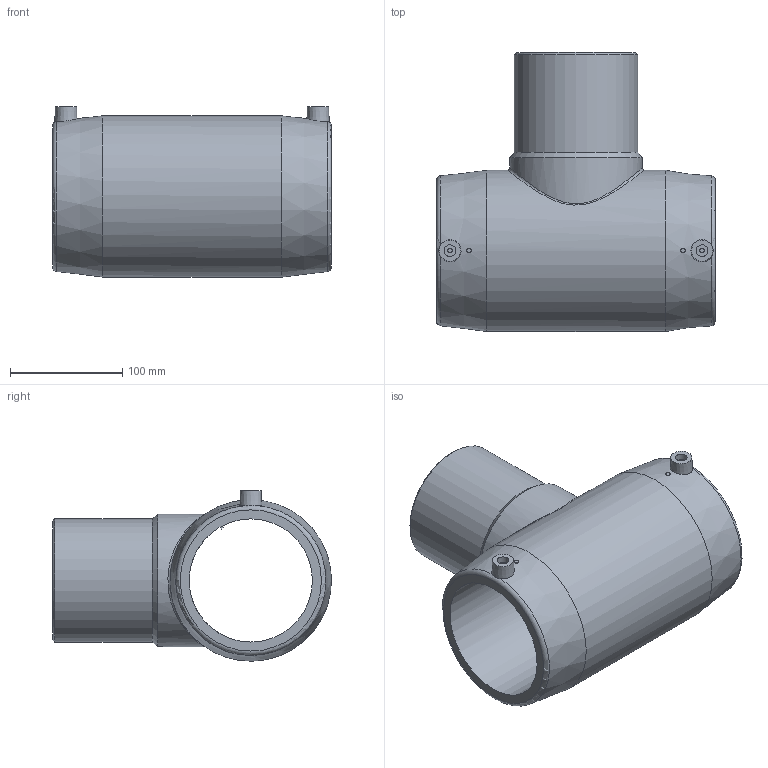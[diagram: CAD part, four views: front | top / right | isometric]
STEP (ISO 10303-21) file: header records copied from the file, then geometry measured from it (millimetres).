
FILE_DESCRIPTION(/* description */ ('Unknown'),/* implementation_level */ '2;1');
FILE_NAME(/* name */ 'TEP110C',/* time_stamp */ '2021-01-25T15:52:29+01:00',/* author */ ('Unknown'),/* organization */ ('Unknown'),/* preprocessor_version */ 'ST-DEVELOPER v16.7',/* originating_system */ 'Solid Edge',/* authorisation */ 'Unknown');
FILE_SCHEMA (('AUTOMOTIVE_DESIGN {1 0 10303 214 3 1 1}'));
Length unit declared in the file: millimetre
Products named in the file (1): TEP110C
Bounding box: 249 x 249 x 152 mm (x, y, z)
Volume: 1866010.4 mm3; surface area: 271285.3 mm2
Topology: 1 solids, 1 shells, 36 faces, 79 edges, 52 vertices
Faces by surface type: plane 16, cylinder 11, cone 6, torus 2, bspline 1
Full cylindrical faces by diameter (mm): 4 x4, 10.5 x2, 90 x1, 110 x2, 118 x1, 144 x1
Entity records: 1248 total; most frequent: CARTESIAN_POINT 574, DIRECTION 136, ORIENTED_EDGE 92, EDGE_LOOP 68, FACE_BOUND 68, AXIS2_PLACEMENT_3D 63, EDGE_CURVE 46, VERTEX_POINT 40
